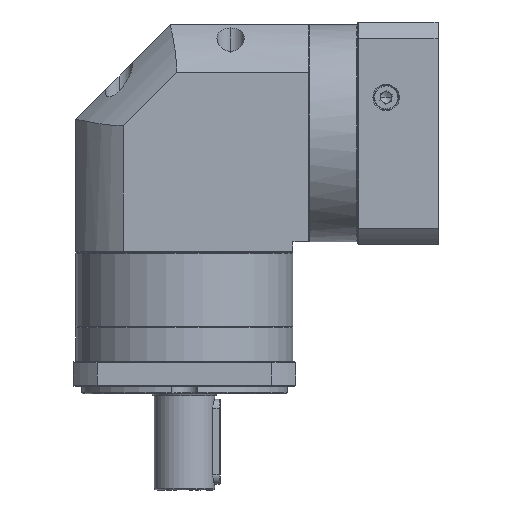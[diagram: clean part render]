
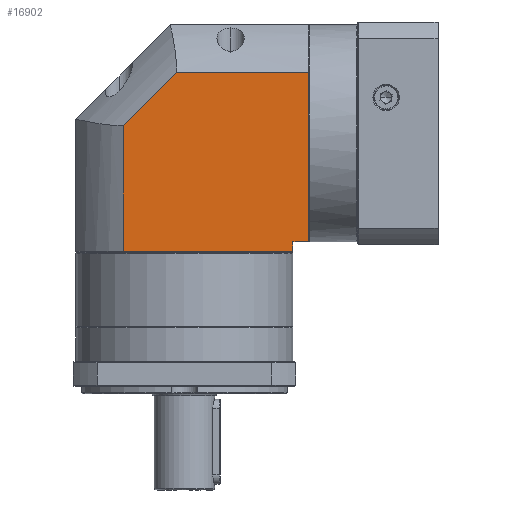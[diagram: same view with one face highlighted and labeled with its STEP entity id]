
A CAD part, front view. The second image highlights one B-rep face of the part: STEP entity #16902.
In plain terms, the highlighted planar face has unit normal (0, -1, 0).
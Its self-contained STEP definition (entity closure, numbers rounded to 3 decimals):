
#196 = CARTESIAN_POINT ( 'NONE',  ( -12.167, 11.319, -59.445 ) ) ;
#882 = LINE ( 'NONE', #6479, #129188 ) ;
#2414 = ORIENTED_EDGE ( 'NONE', *, *, #30726, .F. ) ;
#6203 = LINE ( 'NONE', #118175, #129526 ) ;
#6479 = CARTESIAN_POINT ( 'NONE',  ( 12.933, 11.319, 13.617 ) ) ;
#8834 = DIRECTION ( 'NONE',  ( 1., 0., 0. ) ) ;
#10403 = VERTEX_POINT ( 'NONE', #78325 ) ;
#16299 = CARTESIAN_POINT ( 'NONE',  ( 12.933, 11.319, -52.945 ) ) ;
#16305 = VERTEX_POINT ( 'NONE', #17205 ) ;
#16902 = ADVANCED_FACE ( 'NONE', ( #131079 ), #50150, .F. ) ;
#16937 = DIRECTION ( 'NONE',  ( 0.707, 0., 0.707 ) ) ;
#17205 = CARTESIAN_POINT ( 'NONE',  ( 12.933, 11.319, 13.617 ) ) ;
#19289 = DIRECTION ( 'NONE',  ( 0., 1., 0. ) ) ;
#20563 = CARTESIAN_POINT ( 'NONE',  ( 102.833, 11.319, -52.945 ) ) ;
#25356 = VERTEX_POINT ( 'NONE', #83154 ) ;
#28630 = DIRECTION ( 'NONE',  ( -1., 0., 0. ) ) ;
#30726 = EDGE_CURVE ( 'NONE', #49535, #60244, #80449, .T. ) ;
#32472 = VECTOR ( 'NONE', #28630, 1000. ) ;
#32694 = ORIENTED_EDGE ( 'NONE', *, *, #64589, .F. ) ;
#36841 = EDGE_CURVE ( 'NONE', #61139, #49535, #6203, .T. ) ;
#37729 = CARTESIAN_POINT ( 'NONE',  ( -12.167, 11.319, -47.945 ) ) ;
#38022 = DIRECTION ( 'NONE',  ( 0., 0., -1. ) ) ;
#40253 = CARTESIAN_POINT ( 'NONE',  ( -12.167, 11.319, 41.955 ) ) ;
#40777 = DIRECTION ( 'NONE',  ( 0., 0., 1. ) ) ;
#43392 = EDGE_LOOP ( 'NONE', ( #84599, #63562, #32694, #47461, #131972, #95229, #2414 ) ) ;
#45759 = LINE ( 'NONE', #60777, #128470 ) ;
#47461 = ORIENTED_EDGE ( 'NONE', *, *, #133384, .F. ) ;
#49535 = VERTEX_POINT ( 'NONE', #20563 ) ;
#50150 = PLANE ( 'NONE',  #123752 ) ;
#51759 = VECTOR ( 'NONE', #40777, 1000. ) ;
#53277 = LINE ( 'NONE', #92264, #51759 ) ;
#60244 = VERTEX_POINT ( 'NONE', #16299 ) ;
#60777 = CARTESIAN_POINT ( 'NONE',  ( 111.233, 11.319, -59.445 ) ) ;
#61139 = VERTEX_POINT ( 'NONE', #125688 ) ;
#62755 = LINE ( 'NONE', #40253, #114601 ) ;
#63562 = ORIENTED_EDGE ( 'NONE', *, *, #110089, .F. ) ;
#64589 = EDGE_CURVE ( 'NONE', #10403, #25356, #45759, .T. ) ;
#78325 = CARTESIAN_POINT ( 'NONE',  ( 111.233, 11.319, 41.955 ) ) ;
#80449 = LINE ( 'NONE', #84741, #82139 ) ;
#81129 = DIRECTION ( 'NONE',  ( 0., 0., -1. ) ) ;
#82139 = VECTOR ( 'NONE', #125196, 1000. ) ;
#83154 = CARTESIAN_POINT ( 'NONE',  ( 111.233, 11.319, -47.945 ) ) ;
#84599 = ORIENTED_EDGE ( 'NONE', *, *, #36841, .F. ) ;
#84741 = CARTESIAN_POINT ( 'NONE',  ( -12.167, 11.319, -52.945 ) ) ;
#86071 = CARTESIAN_POINT ( 'NONE',  ( 41.271, 11.319, 41.955 ) ) ;
#92264 = CARTESIAN_POINT ( 'NONE',  ( 12.933, 11.319, -59.445 ) ) ;
#93831 = LINE ( 'NONE', #37729, #32472 ) ;
#95229 = ORIENTED_EDGE ( 'NONE', *, *, #122304, .F. ) ;
#100079 = EDGE_CURVE ( 'NONE', #16305, #120101, #882, .T. ) ;
#110089 = EDGE_CURVE ( 'NONE', #25356, #61139, #93831, .T. ) ;
#112220 = DIRECTION ( 'NONE',  ( 1., 0., 0. ) ) ;
#114601 = VECTOR ( 'NONE', #112220, 1000. ) ;
#118175 = CARTESIAN_POINT ( 'NONE',  ( 102.833, 11.319, -59.445 ) ) ;
#120101 = VERTEX_POINT ( 'NONE', #86071 ) ;
#122304 = EDGE_CURVE ( 'NONE', #60244, #16305, #53277, .T. ) ;
#123752 = AXIS2_PLACEMENT_3D ( 'NONE', #196, #19289, #8834 ) ;
#125196 = DIRECTION ( 'NONE',  ( -1., 0., 0. ) ) ;
#125688 = CARTESIAN_POINT ( 'NONE',  ( 102.833, 11.319, -47.945 ) ) ;
#128470 = VECTOR ( 'NONE', #81129, 1000. ) ;
#129188 = VECTOR ( 'NONE', #16937, 1000. ) ;
#129526 = VECTOR ( 'NONE', #38022, 1000. ) ;
#131079 = FACE_OUTER_BOUND ( 'NONE', #43392, .T. ) ;
#131972 = ORIENTED_EDGE ( 'NONE', *, *, #100079, .F. ) ;
#133384 = EDGE_CURVE ( 'NONE', #120101, #10403, #62755, .T. ) ;
